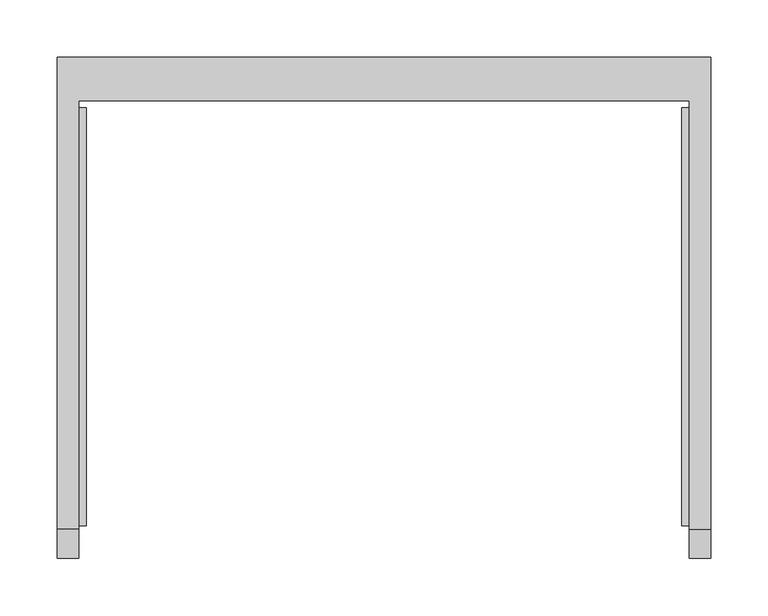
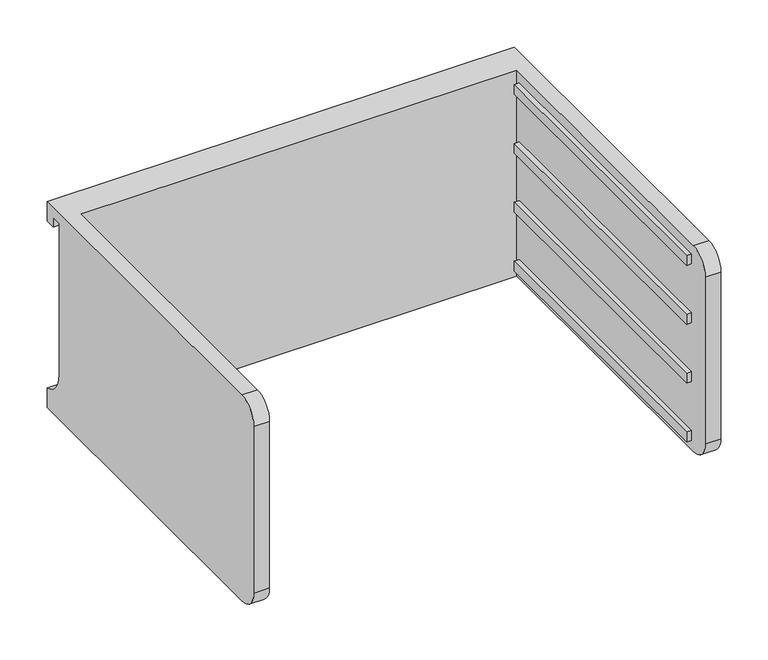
"""IFC4 building model written with IfcOpenShell, lengths in millimetres: furniture geometry."""

from ifc_helpers import new_model, si_unit, frame, origin, place, context, project, spatial, polyline, circle_curve, outline, extrude, source, transform, mapped, element, save
from ifc_brep_helpers import plane_surface, cylinder_surface, revolved_surface, advanced_brep


def furniture_ddd7d6d3(model_context):
    return source(origin(), model_context, "Body", "SolidModel", [
        advanced_brep(
        [(-171.7622951, -331.6523397, 896.9375), (-171.7622951, -357.0523397, 871.5375), (-171.7622951, -357.0523397, 655.6375), (-171.7622951, -331.6523397, 630.2375), (-171.7622951, 43.0421197, 630.2375), (-171.7622951, 43.0421197, 896.9375), (-190.8122951, -331.6523397, 630.2375), (-190.8122951, -357.0523397, 655.6375), (-190.8122951, -357.0523397, 871.5375), (-190.8122951, -331.6523397, 896.9375), (-190.8122951, 81.0976603, 896.9375), (-190.8122951, 81.0976603, 871.5375), (-190.8122951, 68.4421197, 871.5375), (-190.8122951, 68.4421197, 884.2375), (-190.8122951, 55.7421197, 884.2375), (-190.8122951, 55.7421197, 688.18252), (-190.8122951, 81.0976603, 655.6375), (-190.8122951, 81.0976603, 630.2375), (380.6877049, 81.0976603, 630.2375), (380.6877049, -331.6523397, 630.2375), (361.6377049, -331.6523397, 630.2375), (361.6377049, 43.0421197, 630.2375), (361.6377049, 43.0421197, 896.9375), (361.6377049, -331.6523397, 896.9375), (380.6877049, -331.6523397, 896.9375), (380.6877049, 81.0976603, 896.9375), (380.6877049, 81.0976603, 655.6375), (380.6877049, 55.7421197, 688.18252), (380.6877049, 55.7421197, 884.2375), (380.6877049, 68.4421197, 884.2375), (380.6877049, 68.4421197, 871.5375), (380.6877049, 81.0976603, 871.5375), (380.6877049, -357.0523397, 871.5375), (380.6877049, -357.0523397, 655.6375), (361.6377049, -357.0523397, 655.6375), (361.6377049, -357.0523397, 871.5375)],
        [
            (0, 1, circle_curve(frame((-171.7622951, -331.6523397, 871.5375), z_axis=(1.0, 0.0, 0.0), x_axis=(0.0, 0.0, 1.0)), 25.4)),
            (1, 2),
            (2, 3, circle_curve(frame((-171.7622951, -331.6523397, 655.6375), z_axis=(1.0, 0.0, 0.0), x_axis=(0.0, 0.0, 1.0)), 25.4)),
            (3, 4),
            (4, 5),
            (5, 0),
            (6, 7, circle_curve(frame((-190.8122951, -331.6523397, 655.6375), z_axis=(-1.0, 0.0, 0.0), x_axis=(0.0, 0.0, 1.0)), 25.4)),
            (7, 8),
            (8, 9, circle_curve(frame((-190.8122951, -331.6523397, 871.5375), z_axis=(-1.0, 0.0, 0.0), x_axis=(0.0, 0.0, 1.0)), 25.4)),
            (9, 10),
            (10, 11),
            (11, 12),
            (12, 13),
            (13, 14),
            (14, 15),
            (15, 16, circle_curve(frame((-190.8122951, 89.3064162, 688.18252), z_axis=(1.0, 0.0, 0.0), x_axis=(0.0, 0.0, 1.0)), 33.5642965)),
            (16, 17),
            (17, 6),
            (0, 9),
            (8, 1),
            (7, 2),
            (6, 3),
            (17, 18),
            (18, 19),
            (19, 20),
            (20, 21),
            (21, 4),
            (5, 22),
            (22, 23),
            (23, 24),
            (24, 25),
            (25, 10),
            (18, 26),
            (26, 27, circle_curve(frame((380.6877049, 89.3064162, 688.18252), z_axis=(-1.0, 0.0, 0.0), x_axis=(0.0, 0.0, 1.0)), 33.5642965)),
            (27, 28),
            (28, 29),
            (29, 30),
            (30, 31),
            (31, 25),
            (24, 32, circle_curve(frame((380.6877049, -331.6523397, 871.5375), z_axis=(1.0, 0.0, 0.0), x_axis=(0.0, 0.0, 1.0)), 25.4)),
            (32, 33),
            (33, 19, circle_curve(frame((380.6877049, -331.6523397, 655.6375), z_axis=(1.0, 0.0, 0.0), x_axis=(0.0, 0.0, 1.0)), 25.4)),
            (16, 26),
            (15, 27),
            (14, 28),
            (13, 29),
            (12, 30),
            (11, 31),
            (21, 22),
            (20, 34, circle_curve(frame((361.6377049, -331.6523397, 655.6375), z_axis=(-1.0, 0.0, 0.0), x_axis=(0.0, 0.0, 1.0)), 25.4)),
            (34, 35),
            (35, 23, circle_curve(frame((361.6377049, -331.6523397, 871.5375), z_axis=(-1.0, 0.0, 0.0), x_axis=(0.0, 0.0, 1.0)), 25.4)),
            (35, 32),
            (34, 33),
        ],
        [
            plane_surface(frame((-171.7622951, -331.6523397, 896.9375), z_axis=(1.0, 0.0, 0.0), x_axis=(0.0, -1.0, 0.0))),
            plane_surface(frame((-190.8122951, -331.6523397, 896.9375), z_axis=(-1.0, 0.0, 0.0), x_axis=(0.0, 1.0, 0.0))),
            cylinder_surface(frame((-190.8122951, -331.6523397, 871.5375), z_axis=(1.0, 0.0, 0.0), x_axis=(0.0, 0.0, 1.0)), 25.4),
            plane_surface(frame((-171.7622951, -357.0523397, 871.5375), z_axis=(0.0, -1.0, 0.0), x_axis=(-1.0, 0.0, 0.0))),
            cylinder_surface(frame((-190.8122951, -331.6523397, 655.6375), z_axis=(1.0, 0.0, 0.0), x_axis=(0.0, 0.0, 1.0)), 25.4),
            plane_surface(frame((-171.7622951, -331.6523397, 630.2375), z_axis=(0.0, 0.0, -1.0), x_axis=(-1.0, 0.0, 0.0))),
            plane_surface(frame((-171.7622951, 43.0421197, 896.9375), z_axis=(0.0, 0.0, 1.0), x_axis=(-1.0, 0.0, 0.0))),
            plane_surface(frame((380.6877049, 81.0976603, 655.6375), z_axis=(1.0, 0.0, 0.0), x_axis=(0.0, 0.0, 1.0))),
            plane_surface(frame((380.6877049, 81.0976603, 630.2375), z_axis=(0.0, 1.0, 0.0), x_axis=(-1.0, 0.0, 0.0))),
            revolved_surface(polyline([(-190.8122951, 89.3064162, 721.7468164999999), (380.68770489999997, 89.3064162, 721.7468164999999)]), (-190.8122951, 89.3064162, 688.18252), (-1.0, 0.0, 0.0)),
            plane_surface(frame((380.6877049, 55.7421197, 688.18252), z_axis=(0.0, 1.0, 0.0), x_axis=(-1.0, 0.0, 0.0))),
            plane_surface(frame((380.6877049, 55.7421197, 884.2375), z_axis=(0.0, 0.0, -1.0), x_axis=(-1.0, 0.0, 0.0))),
            plane_surface(frame((380.6877049, 68.4421197, 884.2375), z_axis=(0.0, -1.0, 0.0), x_axis=(-1.0, 0.0, 0.0))),
            plane_surface(frame((380.6877049, 68.4421197, 871.5375), z_axis=(0.0, 0.0, -1.0), x_axis=(-1.0, 0.0, 0.0))),
            plane_surface(frame((380.6877049, 81.0976603, 871.5375), z_axis=(0.0, 1.0, 0.0), x_axis=(-1.0, 0.0, 0.0))),
            plane_surface(frame((380.6877049, 43.0421197, 896.9375), z_axis=(0.0, -1.0, 0.0), x_axis=(-1.0, 0.0, 0.0))),
            plane_surface(frame((361.6377049, -331.6523397, 896.9375), z_axis=(-1.0, 0.0, 0.0), x_axis=(0.0, 1.0, 0.0))),
            cylinder_surface(frame((361.6377049, -331.6523397, 871.5375), z_axis=(1.0, 0.0, 0.0), x_axis=(0.0, 0.0, 1.0)), 25.4),
            plane_surface(frame((380.6877049, -357.0523397, 871.5375), z_axis=(0.0, -1.0, 0.0), x_axis=(-1.0, 0.0, 0.0))),
            cylinder_surface(frame((361.6377049, -331.6523397, 655.6375), z_axis=(1.0, 0.0, 0.0), x_axis=(0.0, 0.0, 1.0)), 25.4),
        ],
        [
            (0, [[1, 2, 3, 4, 5, 6]]),
            (1, [[7, 8, 9, 10, 11, 12, 13, 14, 15, 16, 17, 18]]),
            (2, [[-1, 19, -9, 20]]),
            (3, [[-2, -20, -8, 21]]),
            (4, [[-3, -21, -7, 22]]),
            (5, [[-4, -22, -18, 23, 24, 25, 26, 27]]),
            (6, [[-6, 28, 29, 30, 31, 32, -10, -19]]),
            (7, [[-24, 33, 34, 35, 36, 37, 38, 39, -31, 40, 41, 42]]),
            (8, [[-33, -23, -17, 43]]),
            (9, [[-34, -43, -16, 44]]),
            (10, [[-35, -44, -15, 45]]),
            (11, [[-36, -45, -14, 46]]),
            (12, [[-37, -46, -13, 47]]),
            (13, [[-38, -47, -12, 48]]),
            (14, [[-39, -48, -11, -32]]),
            (15, [[-5, -27, 49, -28]]),
            (16, [[-29, -49, -26, 50, 51, 52]]),
            (17, [[-40, -30, -52, 53]]),
            (18, [[-41, -53, -51, 54]]),
            (19, [[-42, -54, -50, -25]]),
        ],
    ),
        extrude(outline(polyline([(355.2877049, -328.4773397), (355.2877049, 36.6921197), (361.6377049, 36.6921197), (361.6377049, -328.4773397), (355.2877049, -328.4773397)])), frame((0.0, 0.0, 719.1375), z_axis=(0.0, 0.0, 1.0), x_axis=(1.0, 0.0, 0.0)), (0.0, 0.0, 1.0), 12.7),
        extrude(outline(polyline([(355.2877049, -328.4773397), (355.2877049, 36.6921197), (361.6377049, 36.6921197), (361.6377049, -328.4773397), (355.2877049, -328.4773397)])), frame((0.0, 0.0, 795.3375), z_axis=(0.0, 0.0, 1.0), x_axis=(1.0, 0.0, 0.0)), (0.0, 0.0, 1.0), 12.7),
        extrude(outline(polyline([(355.2877049, -328.4773397), (355.2877049, 36.6921197), (361.6377049, 36.6921197), (361.6377049, -328.4773397), (355.2877049, -328.4773397)])), frame((0.0, 0.0, 871.5375), z_axis=(0.0, 0.0, 1.0), x_axis=(1.0, 0.0, 0.0)), (0.0, 0.0, 1.0), 12.7),
        extrude(outline(polyline([(355.2877049, -328.4773397), (355.2877049, 36.6921197), (361.6377049, 36.6921197), (361.6377049, -328.4773397), (355.2877049, -328.4773397)])), frame((0.0, 0.0, 642.9375), z_axis=(0.0, 0.0, 1.0), x_axis=(1.0, 0.0, 0.0)), (0.0, 0.0, 1.0), 12.7),
        extrude(outline(polyline([(-171.7622951, -328.4773397), (-171.7622951, 36.6921197), (-165.4122951, 36.6921197), (-165.4122951, -328.4773397), (-171.7622951, -328.4773397)])), frame((0.0, 0.0, 719.1375), z_axis=(0.0, 0.0, 1.0), x_axis=(1.0, 0.0, 0.0)), (0.0, 0.0, 1.0), 12.7),
        extrude(outline(polyline([(-171.7622951, -328.4773397), (-171.7622951, 36.6921197), (-165.4122951, 36.6921197), (-165.4122951, -328.4773397), (-171.7622951, -328.4773397)])), frame((0.0, 0.0, 795.3375), z_axis=(0.0, 0.0, 1.0), x_axis=(1.0, 0.0, 0.0)), (0.0, 0.0, 1.0), 12.7),
        extrude(outline(polyline([(-171.7622951, -328.4773397), (-171.7622951, 36.6921197), (-165.4122951, 36.6921197), (-165.4122951, -328.4773397), (-171.7622951, -328.4773397)])), frame((0.0, 0.0, 871.5375), z_axis=(0.0, 0.0, 1.0), x_axis=(1.0, 0.0, 0.0)), (0.0, 0.0, 1.0), 12.7),
        extrude(outline(polyline([(-171.7622951, -328.4773397), (-171.7622951, 36.6921197), (-165.4122951, 36.6921197), (-165.4122951, -328.4773397), (-171.7622951, -328.4773397)])), frame((0.0, 0.0, 642.9375), z_axis=(0.0, 0.0, 1.0), x_axis=(1.0, 0.0, 0.0)), (0.0, 0.0, 1.0), 12.7),
    ])


if __name__ == "__main__":
    model = new_model("IFC4")
    model_context = context("Model", 3, world=origin())
    ifc_project = project(units=[si_unit("LENGTHUNIT", "METRE", prefix="MILLI")], contexts=[model_context])
    site = spatial("IfcSite", under=ifc_project)
    building = spatial("IfcBuilding", under=site)
    placement = place(None, origin())
    furniture_shape = furniture_ddd7d6d3(model_context)
    element("IfcFurniture", 1, ObjectType="HermanMiller_CoStruc_CO205_CFrame : 10\"H x 17\"D x 22\"W", at=placement, inside=building, context=model_context, shape_type="MappedRepresentation", body=[
        mapped(furniture_shape, transform((0.0, 0.0, 0.0), x_axis=(1.0, 0.0, 0.0), y_axis=(0.0, 1.0, 0.0), z_axis=(0.0, 0.0, 1.0))),
    ])
    save(model, "model.ifc")
